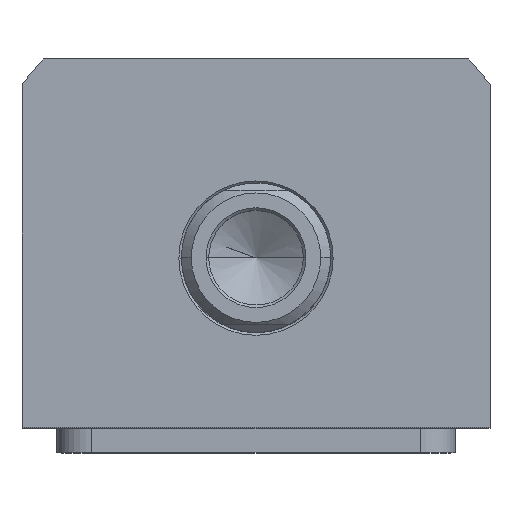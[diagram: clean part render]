
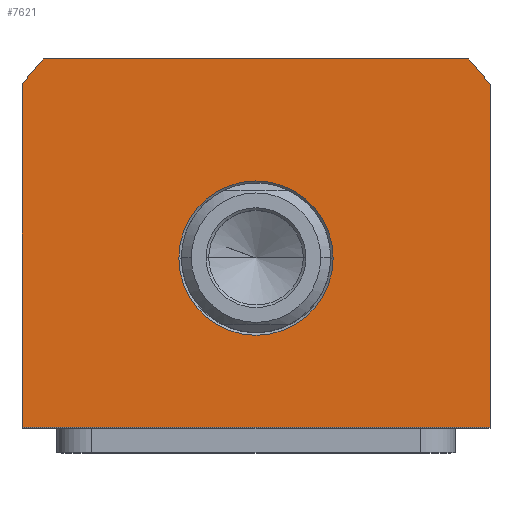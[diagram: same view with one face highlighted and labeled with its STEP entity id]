
A CAD part, top view. The second image highlights one B-rep face of the part: STEP entity #7621.
In plain terms, the highlighted planar face has unit normal (0, 0, 1).
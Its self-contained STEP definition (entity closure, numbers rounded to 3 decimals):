
#99 = DIRECTION ( 'NONE',  ( 1., 0., 0. ) ) ;
#268 = AXIS2_PLACEMENT_3D ( 'NONE', #2434, #5109, #8842 ) ;
#467 = ORIENTED_EDGE ( 'NONE', *, *, #2745, .T. ) ;
#476 = CARTESIAN_POINT ( 'NONE',  ( 47., -34., 57.5 ) ) ;
#710 = CARTESIAN_POINT ( 'NONE',  ( -47., 34.832, 57.5 ) ) ;
#825 = DIRECTION ( 'NONE',  ( -1., 0., 0. ) ) ;
#895 = EDGE_LOOP ( 'NONE', ( #6811, #3621 ) ) ;
#1035 = ORIENTED_EDGE ( 'NONE', *, *, #3550, .T. ) ;
#1051 = VECTOR ( 'NONE', #825, 1000. ) ;
#1097 = AXIS2_PLACEMENT_3D ( 'NONE', #11211, #3983, #4768 ) ;
#1252 = CIRCLE ( 'NONE', #4842, 58.5 ) ;
#1309 = DIRECTION ( 'NONE',  ( 1., 0., 0. ) ) ;
#1392 = EDGE_CURVE ( 'NONE', #3289, #1827, #7767, .T. ) ;
#1655 = ORIENTED_EDGE ( 'NONE', *, *, #4275, .T. ) ;
#1704 = CARTESIAN_POINT ( 'NONE',  ( 0., 0., 57.5 ) ) ;
#1827 = VERTEX_POINT ( 'NONE', #9340 ) ;
#2158 = EDGE_LOOP ( 'NONE', ( #10378, #467, #1655, #10580, #1035, #6557 ) ) ;
#2434 = CARTESIAN_POINT ( 'NONE',  ( 0., 0., 57.5 ) ) ;
#2451 = DIRECTION ( 'NONE',  ( 0., 0., 1. ) ) ;
#2591 = VERTEX_POINT ( 'NONE', #710 ) ;
#2676 = VECTOR ( 'NONE', #11319, 1000. ) ;
#2745 = EDGE_CURVE ( 'NONE', #1827, #4165, #2819, .T. ) ;
#2794 = CARTESIAN_POINT ( 'NONE',  ( -47., -34., 57.5 ) ) ;
#2819 = LINE ( 'NONE', #8565, #2676 ) ;
#3113 = VECTOR ( 'NONE', #4006, 1000. ) ;
#3289 = VERTEX_POINT ( 'NONE', #4510 ) ;
#3384 = DIRECTION ( 'NONE',  ( 0., 0., -1. ) ) ;
#3398 = EDGE_CURVE ( 'NONE', #7258, #9916, #3815, .T. ) ;
#3401 = CARTESIAN_POINT ( 'NONE',  ( 42.688, 40., 57.5 ) ) ;
#3550 = EDGE_CURVE ( 'NONE', #8327, #2591, #8383, .T. ) ;
#3621 = ORIENTED_EDGE ( 'NONE', *, *, #10444, .T. ) ;
#3777 = FACE_BOUND ( 'NONE', #895, .T. ) ;
#3815 = CIRCLE ( 'NONE', #4989, 15.5 ) ;
#3983 = DIRECTION ( 'NONE',  ( 0., 0., 1. ) ) ;
#4006 = DIRECTION ( 'NONE',  ( 0., -1., 0. ) ) ;
#4165 = VERTEX_POINT ( 'NONE', #6568 ) ;
#4275 = EDGE_CURVE ( 'NONE', #4165, #7886, #1252, .T. ) ;
#4510 = CARTESIAN_POINT ( 'NONE',  ( -47., -34., 57.5 ) ) ;
#4589 = CARTESIAN_POINT ( 'NONE',  ( -42.688, 40., 57.5 ) ) ;
#4768 = DIRECTION ( 'NONE',  ( 1., 0., 0. ) ) ;
#4842 = AXIS2_PLACEMENT_3D ( 'NONE', #5883, #2451, #1309 ) ;
#4989 = AXIS2_PLACEMENT_3D ( 'NONE', #9141, #6434, #99 ) ;
#5109 = DIRECTION ( 'NONE',  ( 0., 0., 1. ) ) ;
#5752 = LINE ( 'NONE', #4589, #1051 ) ;
#5883 = CARTESIAN_POINT ( 'NONE',  ( 0., 0., 57.5 ) ) ;
#5905 = DIRECTION ( 'NONE',  ( 1., 0., 0. ) ) ;
#6201 = VECTOR ( 'NONE', #5905, 1000. ) ;
#6266 = CARTESIAN_POINT ( 'NONE',  ( -15.5, 0., 57.5 ) ) ;
#6434 = DIRECTION ( 'NONE',  ( 0., 0., -1. ) ) ;
#6474 = FACE_OUTER_BOUND ( 'NONE', #2158, .T. ) ;
#6557 = ORIENTED_EDGE ( 'NONE', *, *, #9599, .T. ) ;
#6568 = CARTESIAN_POINT ( 'NONE',  ( 47., 34.832, 57.5 ) ) ;
#6698 = PLANE ( 'NONE',  #1097 ) ;
#6811 = ORIENTED_EDGE ( 'NONE', *, *, #3398, .T. ) ;
#6943 = CARTESIAN_POINT ( 'NONE',  ( 15.5, 0., 57.5 ) ) ;
#7244 = CIRCLE ( 'NONE', #11126, 15.5 ) ;
#7258 = VERTEX_POINT ( 'NONE', #6943 ) ;
#7621 = ADVANCED_FACE ( 'NONE', ( #3777, #6474 ), #6698, .T. ) ;
#7767 = LINE ( 'NONE', #476, #6201 ) ;
#7886 = VERTEX_POINT ( 'NONE', #3401 ) ;
#8327 = VERTEX_POINT ( 'NONE', #11795 ) ;
#8383 = CIRCLE ( 'NONE', #268, 58.5 ) ;
#8434 = EDGE_CURVE ( 'NONE', #7886, #8327, #5752, .T. ) ;
#8565 = CARTESIAN_POINT ( 'NONE',  ( 47., 34.832, 57.5 ) ) ;
#8842 = DIRECTION ( 'NONE',  ( 1., 0., 0. ) ) ;
#9141 = CARTESIAN_POINT ( 'NONE',  ( 0., 0., 57.5 ) ) ;
#9340 = CARTESIAN_POINT ( 'NONE',  ( 47., -34., 57.5 ) ) ;
#9599 = EDGE_CURVE ( 'NONE', #2591, #3289, #11005, .T. ) ;
#9916 = VERTEX_POINT ( 'NONE', #6266 ) ;
#10378 = ORIENTED_EDGE ( 'NONE', *, *, #1392, .T. ) ;
#10444 = EDGE_CURVE ( 'NONE', #9916, #7258, #7244, .T. ) ;
#10580 = ORIENTED_EDGE ( 'NONE', *, *, #8434, .T. ) ;
#11005 = LINE ( 'NONE', #2794, #3113 ) ;
#11126 = AXIS2_PLACEMENT_3D ( 'NONE', #1704, #3384, #11718 ) ;
#11211 = CARTESIAN_POINT ( 'NONE',  ( 0., 0., 57.5 ) ) ;
#11319 = DIRECTION ( 'NONE',  ( 0., 1., 0. ) ) ;
#11718 = DIRECTION ( 'NONE',  ( 1., 0., 0. ) ) ;
#11795 = CARTESIAN_POINT ( 'NONE',  ( -42.688, 40., 57.5 ) ) ;
